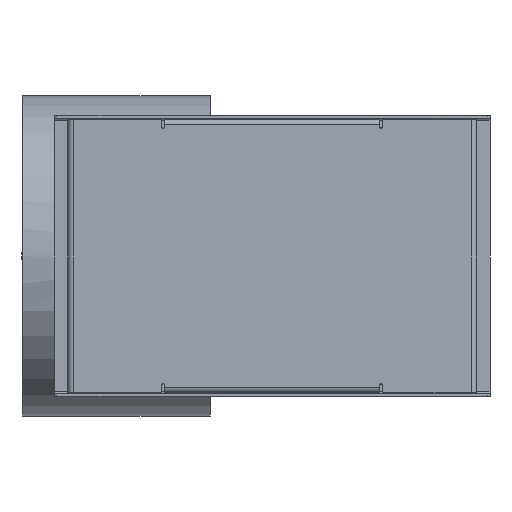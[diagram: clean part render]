
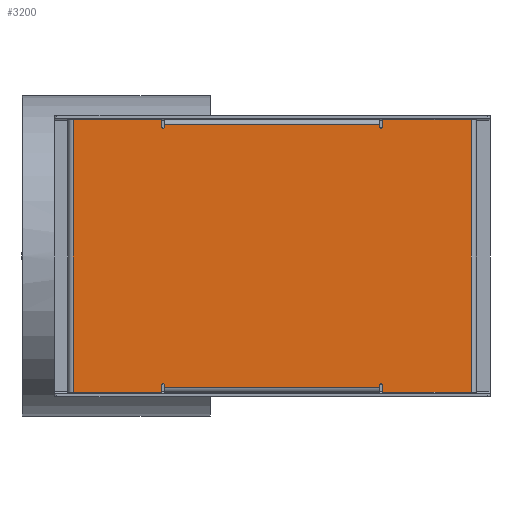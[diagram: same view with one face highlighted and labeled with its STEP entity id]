
A CAD part, left-side view. The second image highlights one B-rep face of the part: STEP entity #3200.
In plain terms, the highlighted planar face has unit normal (-1, 0, 0).
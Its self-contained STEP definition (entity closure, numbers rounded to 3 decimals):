
#101=PLANE('',#3437);
#222=FACE_OUTER_BOUND('',#410,.T.);
#410=EDGE_LOOP('',(#2207,#2208,#2209,#2210,#2211,#2212,#2213,#2214,#2215,
#2216,#2217,#2218,#2219,#2220,#2221,#2222,#2223,#2224,#2225,#2226,#2227,
#2228,#2229,#2230));
#656=LINE('',#4860,#938);
#662=LINE('',#4880,#944);
#663=LINE('',#4883,#945);
#666=LINE('',#4889,#948);
#669=LINE('',#4895,#951);
#670=LINE('',#4899,#952);
#671=LINE('',#4903,#953);
#672=LINE('',#4905,#954);
#673=LINE('',#4907,#955);
#674=LINE('',#4911,#956);
#675=LINE('',#4914,#957);
#676=LINE('',#4918,#958);
#677=LINE('',#4922,#959);
#678=LINE('',#4924,#960);
#679=LINE('',#4926,#961);
#680=LINE('',#4930,#962);
#938=VECTOR('',#3895,10.);
#944=VECTOR('',#3921,10.);
#945=VECTOR('',#3924,10.);
#948=VECTOR('',#3929,10.);
#951=VECTOR('',#3934,10.);
#952=VECTOR('',#3937,10.);
#953=VECTOR('',#3940,10.);
#954=VECTOR('',#3941,10.);
#955=VECTOR('',#3942,10.);
#956=VECTOR('',#3945,10.);
#957=VECTOR('',#3948,10.);
#958=VECTOR('',#3951,10.);
#959=VECTOR('',#3954,10.);
#960=VECTOR('',#3955,10.);
#961=VECTOR('',#3956,10.);
#962=VECTOR('',#3959,10.);
#1161=CIRCLE('',#3438,0.5);
#1162=CIRCLE('',#3439,0.5);
#1163=CIRCLE('',#3440,0.5);
#1164=CIRCLE('',#3441,0.5);
#1165=CIRCLE('',#3442,0.5);
#1166=CIRCLE('',#3443,0.5);
#1167=CIRCLE('',#3444,0.5);
#1168=CIRCLE('',#3445,0.5);
#1356=VERTEX_POINT('',#4849);
#1357=VERTEX_POINT('',#4853);
#1360=VERTEX_POINT('',#4869);
#1361=VERTEX_POINT('',#4873);
#1362=VERTEX_POINT('',#4882);
#1364=VERTEX_POINT('',#4888);
#1366=VERTEX_POINT('',#4894);
#1367=VERTEX_POINT('',#4896);
#1368=VERTEX_POINT('',#4898);
#1369=VERTEX_POINT('',#4900);
#1370=VERTEX_POINT('',#4902);
#1371=VERTEX_POINT('',#4904);
#1372=VERTEX_POINT('',#4906);
#1373=VERTEX_POINT('',#4908);
#1374=VERTEX_POINT('',#4910);
#1375=VERTEX_POINT('',#4913);
#1376=VERTEX_POINT('',#4915);
#1377=VERTEX_POINT('',#4917);
#1378=VERTEX_POINT('',#4919);
#1379=VERTEX_POINT('',#4921);
#1380=VERTEX_POINT('',#4923);
#1381=VERTEX_POINT('',#4925);
#1382=VERTEX_POINT('',#4927);
#1383=VERTEX_POINT('',#4929);
#1668=EDGE_CURVE('',#1356,#1357,#656,.T.);
#1678=EDGE_CURVE('',#1360,#1361,#662,.T.);
#1679=EDGE_CURVE('',#1356,#1362,#663,.T.);
#1682=EDGE_CURVE('',#1360,#1364,#666,.T.);
#1685=EDGE_CURVE('',#1366,#1357,#669,.T.);
#1686=EDGE_CURVE('',#1367,#1366,#1161,.T.);
#1687=EDGE_CURVE('',#1368,#1367,#670,.T.);
#1688=EDGE_CURVE('',#1369,#1368,#1162,.T.);
#1689=EDGE_CURVE('',#1370,#1369,#671,.T.);
#1690=EDGE_CURVE('',#1370,#1371,#672,.T.);
#1691=EDGE_CURVE('',#1372,#1371,#673,.T.);
#1692=EDGE_CURVE('',#1373,#1372,#1163,.T.);
#1693=EDGE_CURVE('',#1374,#1373,#674,.T.);
#1694=EDGE_CURVE('',#1364,#1374,#1164,.T.);
#1695=EDGE_CURVE('',#1375,#1361,#675,.T.);
#1696=EDGE_CURVE('',#1376,#1375,#1165,.T.);
#1697=EDGE_CURVE('',#1377,#1376,#676,.T.);
#1698=EDGE_CURVE('',#1378,#1377,#1166,.T.);
#1699=EDGE_CURVE('',#1379,#1378,#677,.T.);
#1700=EDGE_CURVE('',#1379,#1380,#678,.T.);
#1701=EDGE_CURVE('',#1381,#1380,#679,.T.);
#1702=EDGE_CURVE('',#1382,#1381,#1167,.T.);
#1703=EDGE_CURVE('',#1383,#1382,#680,.T.);
#1704=EDGE_CURVE('',#1362,#1383,#1168,.T.);
#2207=ORIENTED_EDGE('',*,*,#1668,.T.);
#2208=ORIENTED_EDGE('',*,*,#1685,.F.);
#2209=ORIENTED_EDGE('',*,*,#1686,.F.);
#2210=ORIENTED_EDGE('',*,*,#1687,.F.);
#2211=ORIENTED_EDGE('',*,*,#1688,.F.);
#2212=ORIENTED_EDGE('',*,*,#1689,.F.);
#2213=ORIENTED_EDGE('',*,*,#1690,.T.);
#2214=ORIENTED_EDGE('',*,*,#1691,.F.);
#2215=ORIENTED_EDGE('',*,*,#1692,.F.);
#2216=ORIENTED_EDGE('',*,*,#1693,.F.);
#2217=ORIENTED_EDGE('',*,*,#1694,.F.);
#2218=ORIENTED_EDGE('',*,*,#1682,.F.);
#2219=ORIENTED_EDGE('',*,*,#1678,.T.);
#2220=ORIENTED_EDGE('',*,*,#1695,.F.);
#2221=ORIENTED_EDGE('',*,*,#1696,.F.);
#2222=ORIENTED_EDGE('',*,*,#1697,.F.);
#2223=ORIENTED_EDGE('',*,*,#1698,.F.);
#2224=ORIENTED_EDGE('',*,*,#1699,.F.);
#2225=ORIENTED_EDGE('',*,*,#1700,.T.);
#2226=ORIENTED_EDGE('',*,*,#1701,.F.);
#2227=ORIENTED_EDGE('',*,*,#1702,.F.);
#2228=ORIENTED_EDGE('',*,*,#1703,.F.);
#2229=ORIENTED_EDGE('',*,*,#1704,.F.);
#2230=ORIENTED_EDGE('',*,*,#1679,.F.);
#3200=ADVANCED_FACE('',(#222),#101,.F.);
#3437=AXIS2_PLACEMENT_3D('',#4893,#3932,#3933);
#3438=AXIS2_PLACEMENT_3D('',#4897,#3935,#3936);
#3439=AXIS2_PLACEMENT_3D('',#4901,#3938,#3939);
#3440=AXIS2_PLACEMENT_3D('',#4909,#3943,#3944);
#3441=AXIS2_PLACEMENT_3D('',#4912,#3946,#3947);
#3442=AXIS2_PLACEMENT_3D('',#4916,#3949,#3950);
#3443=AXIS2_PLACEMENT_3D('',#4920,#3952,#3953);
#3444=AXIS2_PLACEMENT_3D('',#4928,#3957,#3958);
#3445=AXIS2_PLACEMENT_3D('',#4931,#3960,#3961);
#3895=DIRECTION('',(0.,0.,1.));
#3921=DIRECTION('',(0.,0.,-1.));
#3924=DIRECTION('',(0.,1.,0.));
#3929=DIRECTION('',(0.,-1.,0.));
#3932=DIRECTION('center_axis',(1.,0.,0.));
#3933=DIRECTION('ref_axis',(0.,0.,-1.));
#3934=DIRECTION('',(0.,-1.,0.));
#3935=DIRECTION('center_axis',(1.,0.,0.));
#3936=DIRECTION('ref_axis',(0.,0.707,0.707));
#3937=DIRECTION('',(0.,0.,1.));
#3938=DIRECTION('center_axis',(-1.,0.,0.));
#3939=DIRECTION('ref_axis',(0.,0.707,-0.707));
#3940=DIRECTION('',(0.,0.,-1.));
#3941=DIRECTION('',(0.,1.,0.));
#3942=DIRECTION('',(0.,0.,1.));
#3943=DIRECTION('center_axis',(-1.,0.,0.));
#3944=DIRECTION('ref_axis',(0.,0.707,-0.707));
#3945=DIRECTION('',(0.,0.,-1.));
#3946=DIRECTION('center_axis',(1.,0.,0.));
#3947=DIRECTION('ref_axis',(0.,-0.707,0.707));
#3948=DIRECTION('',(0.,1.,0.));
#3949=DIRECTION('center_axis',(1.,0.,0.));
#3950=DIRECTION('ref_axis',(0.,-0.707,-0.707));
#3951=DIRECTION('',(0.,0.,-1.));
#3952=DIRECTION('center_axis',(-1.,0.,0.));
#3953=DIRECTION('ref_axis',(0.,-0.707,0.707));
#3954=DIRECTION('',(0.,0.,1.));
#3955=DIRECTION('',(0.,-1.,0.));
#3956=DIRECTION('',(0.,0.,-1.));
#3957=DIRECTION('center_axis',(-1.,0.,0.));
#3958=DIRECTION('ref_axis',(0.,-0.707,0.707));
#3959=DIRECTION('',(0.,0.,1.));
#3960=DIRECTION('center_axis',(1.,0.,0.));
#3961=DIRECTION('ref_axis',(0.,0.707,-0.707));
#4849=CARTESIAN_POINT('',(0.,-74.,-50.75));
#4853=CARTESIAN_POINT('',(0.,-74.,50.75));
#4860=CARTESIAN_POINT('',(0.,-74.,25.375));
#4869=CARTESIAN_POINT('',(0.,74.,50.75));
#4873=CARTESIAN_POINT('',(0.,74.,-50.75));
#4880=CARTESIAN_POINT('',(0.,74.,-25.375));
#4882=CARTESIAN_POINT('',(0.,-41.5,-50.75));
#4883=CARTESIAN_POINT('',(0.,-76.,-50.75));
#4888=CARTESIAN_POINT('',(0.,41.5,50.75));
#4889=CARTESIAN_POINT('',(0.,76.,50.75));
#4893=CARTESIAN_POINT('Origin',(0.,0.,0.));
#4894=CARTESIAN_POINT('',(0.,-41.5,50.75));
#4895=CARTESIAN_POINT('',(0.,-41.,50.75));
#4896=CARTESIAN_POINT('',(0.,-41.,50.25));
#4897=CARTESIAN_POINT('Origin',(0.,-41.5,50.25));
#4898=CARTESIAN_POINT('',(0.,-41.,48.));
#4899=CARTESIAN_POINT('',(0.,-41.,47.5));
#4900=CARTESIAN_POINT('',(0.,-40.,48.));
#4901=CARTESIAN_POINT('Origin',(0.,-40.5,48.));
#4902=CARTESIAN_POINT('',(0.,-40.,48.75));
#4903=CARTESIAN_POINT('',(0.,-40.,50.75));
#4904=CARTESIAN_POINT('',(0.,40.,48.75));
#4905=CARTESIAN_POINT('',(0.,-20.,48.75));
#4906=CARTESIAN_POINT('',(0.,40.,48.));
#4907=CARTESIAN_POINT('',(0.,40.,47.5));
#4908=CARTESIAN_POINT('',(0.,41.,48.));
#4909=CARTESIAN_POINT('Origin',(0.,40.5,48.));
#4910=CARTESIAN_POINT('',(0.,41.,50.25));
#4911=CARTESIAN_POINT('',(0.,41.,50.75));
#4912=CARTESIAN_POINT('Origin',(0.,41.5,50.25));
#4913=CARTESIAN_POINT('',(0.,41.5,-50.75));
#4914=CARTESIAN_POINT('',(0.,41.,-50.75));
#4915=CARTESIAN_POINT('',(0.,41.,-50.25));
#4916=CARTESIAN_POINT('Origin',(0.,41.5,-50.25));
#4917=CARTESIAN_POINT('',(0.,41.,-48.));
#4918=CARTESIAN_POINT('',(0.,41.,-47.5));
#4919=CARTESIAN_POINT('',(0.,40.,-48.));
#4920=CARTESIAN_POINT('Origin',(0.,40.5,-48.));
#4921=CARTESIAN_POINT('',(0.,40.,-48.75));
#4922=CARTESIAN_POINT('',(0.,40.,-50.75));
#4923=CARTESIAN_POINT('',(0.,-40.,-48.75));
#4924=CARTESIAN_POINT('',(0.,20.,-48.75));
#4925=CARTESIAN_POINT('',(0.,-40.,-48.));
#4926=CARTESIAN_POINT('',(0.,-40.,-47.5));
#4927=CARTESIAN_POINT('',(0.,-41.,-48.));
#4928=CARTESIAN_POINT('Origin',(0.,-40.5,-48.));
#4929=CARTESIAN_POINT('',(0.,-41.,-50.25));
#4930=CARTESIAN_POINT('',(0.,-41.,-50.75));
#4931=CARTESIAN_POINT('Origin',(0.,-41.5,-50.25));
